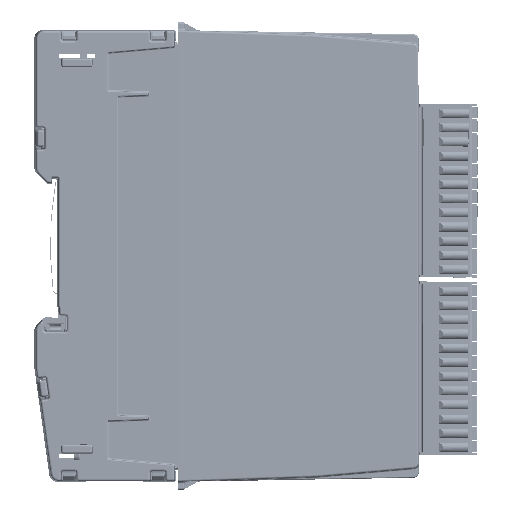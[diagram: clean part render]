
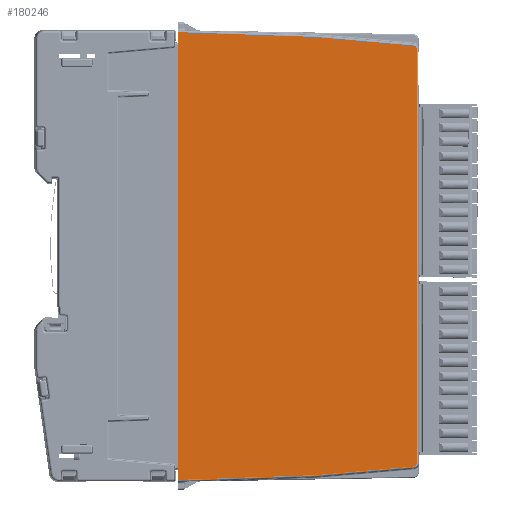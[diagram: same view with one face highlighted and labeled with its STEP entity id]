
A CAD part, left-side view. The second image highlights one B-rep face of the part: STEP entity #180246.
In plain terms, the highlighted planar face has unit normal (-1, -0.018, 0).
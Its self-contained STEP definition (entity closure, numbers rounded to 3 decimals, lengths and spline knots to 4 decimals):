
#2345=ELLIPSE('',#193501,0.0315,0.0315);
#2346=ELLIPSE('',#193502,0.0315,0.0315);
#10009=PLANE('',#193500);
#18106=FACE_OUTER_BOUND('',#28079,.T.);
#28079=EDGE_LOOP('',(#147333,#147334,#147335,#147336,#147337,#147338,#147339,
#147340,#147341,#147342));
#49906=LINE('',#299056,#67711);
#49907=LINE('',#299058,#67712);
#49908=LINE('',#299060,#67713);
#49909=LINE('',#299062,#67714);
#49910=LINE('',#299064,#67715);
#49911=LINE('',#299068,#67716);
#49912=LINE('',#299072,#67717);
#49913=LINE('',#299073,#67718);
#67711=VECTOR('',#229996,39.3701);
#67712=VECTOR('',#229997,39.3701);
#67713=VECTOR('',#229998,39.3701);
#67714=VECTOR('',#229999,39.3701);
#67715=VECTOR('',#230000,39.3701);
#67716=VECTOR('',#230003,39.3701);
#67717=VECTOR('',#230006,39.3701);
#67718=VECTOR('',#230007,39.3701);
#84170=VERTEX_POINT('',#299054);
#84171=VERTEX_POINT('',#299055);
#84172=VERTEX_POINT('',#299057);
#84173=VERTEX_POINT('',#299059);
#84174=VERTEX_POINT('',#299061);
#84175=VERTEX_POINT('',#299063);
#84176=VERTEX_POINT('',#299065);
#84177=VERTEX_POINT('',#299067);
#84178=VERTEX_POINT('',#299069);
#84179=VERTEX_POINT('',#299071);
#106158=EDGE_CURVE('',#84170,#84171,#49906,.T.);
#106159=EDGE_CURVE('',#84172,#84171,#49907,.T.);
#106160=EDGE_CURVE('',#84172,#84173,#49908,.T.);
#106161=EDGE_CURVE('',#84173,#84174,#49909,.T.);
#106162=EDGE_CURVE('',#84174,#84175,#49910,.T.);
#106163=EDGE_CURVE('',#84175,#84176,#2345,.T.);
#106164=EDGE_CURVE('',#84176,#84177,#49911,.T.);
#106165=EDGE_CURVE('',#84177,#84178,#2346,.T.);
#106166=EDGE_CURVE('',#84178,#84179,#49912,.T.);
#106167=EDGE_CURVE('',#84179,#84170,#49913,.T.);
#147333=ORIENTED_EDGE('',*,*,#106158,.T.);
#147334=ORIENTED_EDGE('',*,*,#106159,.F.);
#147335=ORIENTED_EDGE('',*,*,#106160,.T.);
#147336=ORIENTED_EDGE('',*,*,#106161,.T.);
#147337=ORIENTED_EDGE('',*,*,#106162,.T.);
#147338=ORIENTED_EDGE('',*,*,#106163,.T.);
#147339=ORIENTED_EDGE('',*,*,#106164,.T.);
#147340=ORIENTED_EDGE('',*,*,#106165,.T.);
#147341=ORIENTED_EDGE('',*,*,#106166,.T.);
#147342=ORIENTED_EDGE('',*,*,#106167,.T.);
#180246=ADVANCED_FACE('',(#18106),#10009,.T.);
#193500=AXIS2_PLACEMENT_3D('',#299053,#229994,#229995);
#193501=AXIS2_PLACEMENT_3D('',#299066,#230001,#230002);
#193502=AXIS2_PLACEMENT_3D('',#299070,#230004,#230005);
#229994=DIRECTION('center_axis',(-1.,-0.017,
0.));
#229995=DIRECTION('ref_axis',(-0.017,1.,0.));
#229996=DIRECTION('',(0.,0.,-1.));
#229997=DIRECTION('',(0.,0.,1.));
#229998=DIRECTION('',(0.,0.,-1.));
#229999=DIRECTION('',(0.017,-0.999,0.035));
#230000=DIRECTION('',(0.017,-0.996,0.087));
#230001=DIRECTION('center_axis',(-1.,-0.017,
0.));
#230002=DIRECTION('ref_axis',(0.017,-1.,0.));
#230003=DIRECTION('',(0.,0.,1.));
#230004=DIRECTION('center_axis',(-1.,-0.017,
0.));
#230005=DIRECTION('ref_axis',(0.017,-1.,0.));
#230006=DIRECTION('',(-0.017,0.996,0.087));
#230007=DIRECTION('',(-0.017,0.999,0.035));
#299053=CARTESIAN_POINT('Origin',(-0.0296,-0.489,
-2.0669));
#299054=CARTESIAN_POINT('',(-0.0227,-0.8827,0.1083));
#299055=CARTESIAN_POINT('',(-0.0227,-0.8827,-0.0312));
#299056=CARTESIAN_POINT('',(-0.0227,-0.8827,0.128));
#299057=CARTESIAN_POINT('',(-0.0227,-0.8827,-4.1027));
#299058=CARTESIAN_POINT('',(-0.0227,-0.8827,-7.5932));
#299059=CARTESIAN_POINT('',(-0.0227,-0.8827,-4.2421));
#299060=CARTESIAN_POINT('',(-0.0227,-0.8827,0.128));
#299061=CARTESIAN_POINT('',(0.0007,-2.2205,-4.1954));
#299062=CARTESIAN_POINT('',(-0.0282,-0.5654,-4.2532));
#299063=CARTESIAN_POINT('',(0.0174,-3.1772,-4.1117));
#299064=CARTESIAN_POINT('',(-0.0261,-0.6869,-4.3296));
#299065=CARTESIAN_POINT('',(0.0179,-3.2059,-4.0803));
#299066=CARTESIAN_POINT('Origin',(0.0173,-3.1744,
-4.0803));
#299067=CARTESIAN_POINT('',(0.0179,-3.2059,-0.0535));
#299068=CARTESIAN_POINT('',(0.0179,-3.2059,-0.0535));
#299069=CARTESIAN_POINT('',(0.0174,-3.1772,-0.0221));
#299070=CARTESIAN_POINT('Origin',(0.0173,-3.1744,
-0.0535));
#299071=CARTESIAN_POINT('',(0.0007,-2.2205,0.0616));
#299072=CARTESIAN_POINT('',(-0.0261,-0.6869,0.1957));
#299073=CARTESIAN_POINT('',(-0.0282,-0.5654,0.1194));
